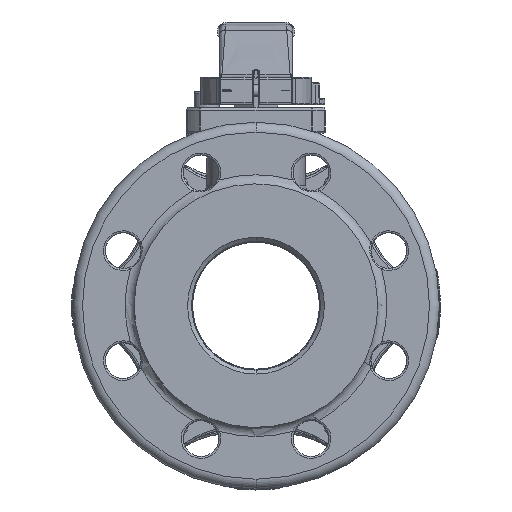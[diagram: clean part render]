
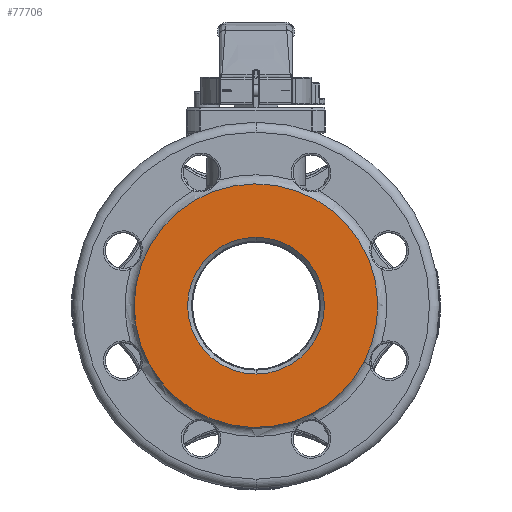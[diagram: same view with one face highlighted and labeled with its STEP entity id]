
A CAD part, left-side view. The second image highlights one B-rep face of the part: STEP entity #77706.
In plain terms, the highlighted planar face has unit normal (-1, 0, 0).
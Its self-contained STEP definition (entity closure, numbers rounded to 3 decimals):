
#15431=CARTESIAN_POINT('',(-65.,0.,0.));
#15432=DIRECTION('',(-1.,0.,0.));
#15433=DIRECTION('',(0.,-0.886,-0.464));
#15434=AXIS2_PLACEMENT_3D('',#15431,#15432,#15433);
#15436=CARTESIAN_POINT('',(-65.,0.,0.));
#15437=DIRECTION('',(-1.,0.,0.));
#15438=DIRECTION('',(0.,-0.464,-0.886));
#15439=AXIS2_PLACEMENT_3D('',#15436,#15437,#15438);
#15441=CARTESIAN_POINT('',(-65.,0.,0.));
#15442=DIRECTION('',(-1.,0.,0.));
#15443=DIRECTION('',(0.,0.,1.));
#15444=AXIS2_PLACEMENT_3D('',#15441,#15442,#15443);
#15446=CARTESIAN_POINT('',(-65.,0.,0.));
#15447=DIRECTION('',(1.,0.,0.));
#15448=DIRECTION('',(0.,0.,1.));
#15449=AXIS2_PLACEMENT_3D('',#15446,#15447,#15448);
#45722=CARTESIAN_POINT('',(-65.,0.,34.5));
#45723=CARTESIAN_POINT('',(-65.,0.,-34.5));
#45724=VERTEX_POINT('',#45722);
#45725=VERTEX_POINT('',#45723);
#45730=CARTESIAN_POINT('',(-65.,-54.4,-28.509));
#45731=CARTESIAN_POINT('',(-65.,-28.509,-54.4));
#45732=VERTEX_POINT('',#45730);
#45733=VERTEX_POINT('',#45731);
#77692=CARTESIAN_POINT('',(-65.,0.,0.));
#77693=DIRECTION('',(-1.,0.,0.));
#77694=DIRECTION('',(0.,0.,1.));
#77695=AXIS2_PLACEMENT_3D('',#77692,#77693,#77694);
#77696=PLANE('',#77695);
#77697=ORIENTED_EDGE('',*,*,#77653,.F.);
#77699=ORIENTED_EDGE('',*,*,#77698,.F.);
#77700=EDGE_LOOP('',(#77697,#77699));
#77701=FACE_OUTER_BOUND('',#77700,.F.);
#77702=ORIENTED_EDGE('',*,*,#55365,.T.);
#77703=ORIENTED_EDGE('',*,*,#55350,.F.);
#77704=EDGE_LOOP('',(#77702,#77703));
#77705=FACE_BOUND('',#77704,.F.);
#77706=ADVANCED_FACE('',(#77701,#77705),#77696,.T.);
#15435=CIRCLE('',#15434,61.417);
#15440=CIRCLE('',#15439,61.417);
#15445=CIRCLE('',#15444,34.5);
#15450=CIRCLE('',#15449,34.5);
#55350=EDGE_CURVE('',#45724,#45725,#15450,.T.);
#55365=EDGE_CURVE('',#45724,#45725,#15445,.T.);
#77653=EDGE_CURVE('',#45732,#45733,#15435,.T.);
#77698=EDGE_CURVE('',#45733,#45732,#15440,.T.);
